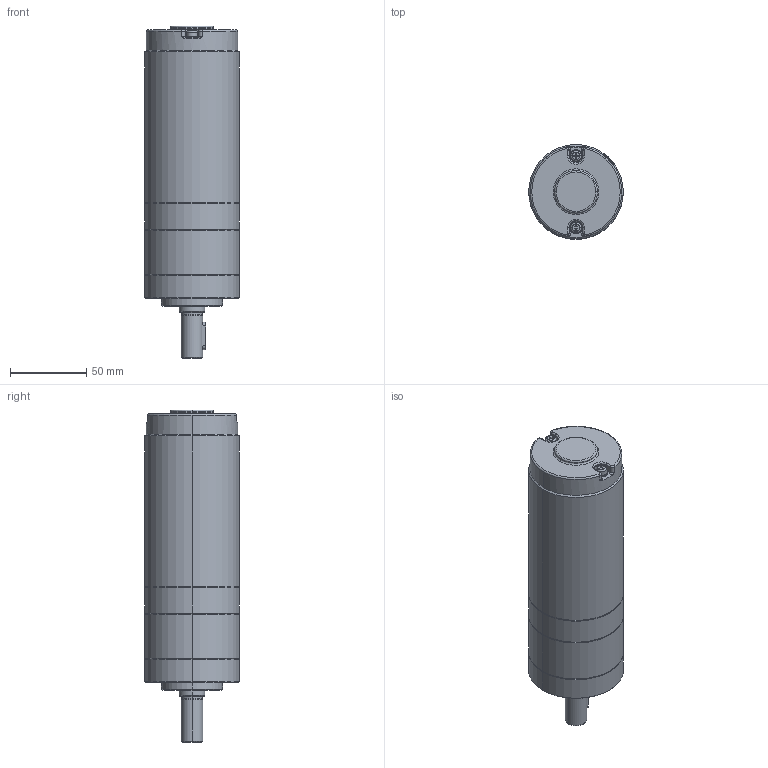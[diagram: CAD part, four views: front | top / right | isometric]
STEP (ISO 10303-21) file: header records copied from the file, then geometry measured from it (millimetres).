
FILE_DESCRIPTION (( 'STEP AP203' ), '1' );
FILE_NAME ('62ZPN衄芃珨撰熬厒90W.STEP', '2021-07-17T08:19:28', ( '' ), ( '' ), 'SwSTEP 2.0', 'SolidWorks 2021', '' );
FILE_SCHEMA (( 'CONFIG_CONTROL_DESIGN' ));
Length unit declared in the file: millimetre
Products named in the file (1): 62ZPN衄芃珨撰熬厒90W
Bounding box: 62 x 62 x 217.6 mm (x, y, z)
Volume: 539475.8 mm3; surface area: 45427 mm2
Topology: 1 solids, 1 shells, 271 faces, 633 edges, 379 vertices
Faces by surface type: plane 98, cylinder 95, cone 44, torus 27, bspline 7
Entity records: 8192 total; most frequent: CARTESIAN_POINT 1873, DIRECTION 1386, ORIENTED_EDGE 1242, EDGE_CURVE 621, AXIS2_PLACEMENT_3D 528, VERTEX_POINT 379, LINE 330, VECTOR 330
